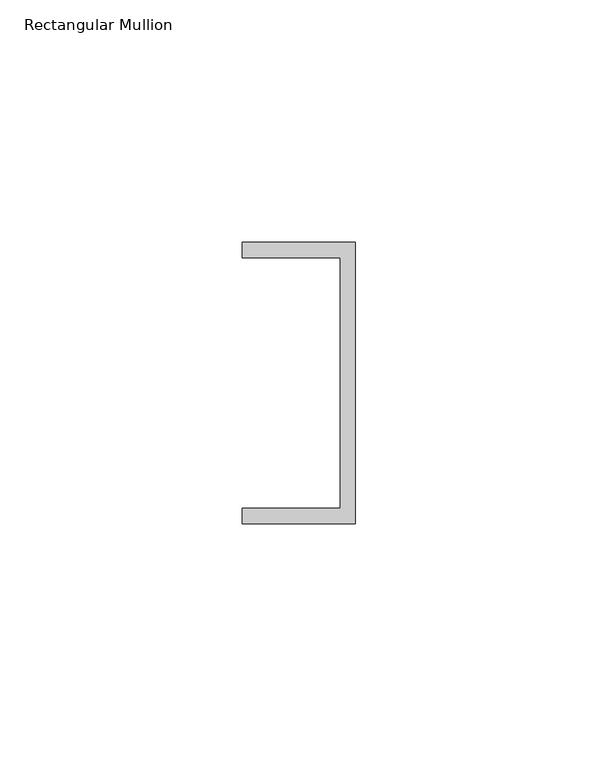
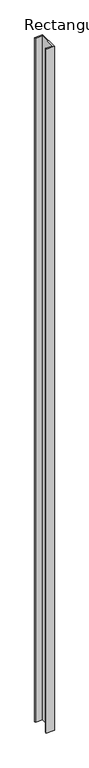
"""IFC4 building model written with IfcOpenShell, lengths in millimetres: member geometry, Rectangular Mullion : Frame-Teknion-Altos-Base_Channel."""

from ifc_helpers import new_model, si_unit, frame, origin, place, context, project, spatial, polyline, outline, extrude, source, transform, mapped, element, save


def rectangular_mullion_8b23e5bd(model_context):
    return source(origin(), model_context, "Body", "SweptSolid", [
        extrude(outline(polyline([(0.0, 29.0214844), (0.0, -29.0214844), (-23.3164063, -29.0214844), (-23.3164063, -25.8464844), (-3.175, -25.8464844), (-3.175, 25.8464844), (-23.3164063, 25.8464844), (-23.3164063, 29.0214844), (0.0, 29.0214844)])), frame((0.0, 0.0, -2091.6304687), z_axis=(0.0, 0.0, 1.0), x_axis=(1.0, 0.0, 0.0)), (0.0, 0.0, 1.0), 2091.6304688),
    ])


if __name__ == "__main__":
    model = new_model("IFC4")
    model_context = context("Model", 3, world=origin())
    ifc_project = project(units=[si_unit("LENGTHUNIT", "METRE", prefix="MILLI")], contexts=[model_context])
    site = spatial("IfcSite", under=ifc_project)
    building = spatial("IfcBuilding", under=site)
    placement = place(None, origin())
    rectangular_mullion_shape = rectangular_mullion_8b23e5bd(model_context)
    element("IfcMember", 1, ObjectType="Rectangular Mullion : Frame-Teknion-Altos-Base_Channel", at=placement, inside=building, context=model_context, shape_type="MappedRepresentation", body=[
        mapped(rectangular_mullion_shape, transform((0.0, 0.0, 0.0), x_axis=(1.0, 0.0, 0.0), y_axis=(0.0, 1.0, 0.0), z_axis=(0.0, 0.0, 1.0))),
    ])
    save(model, "model.ifc")
